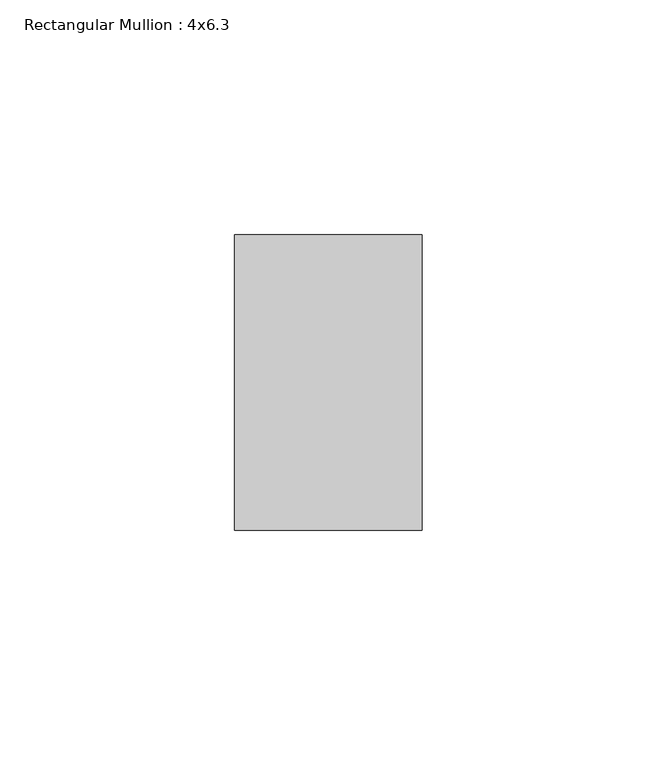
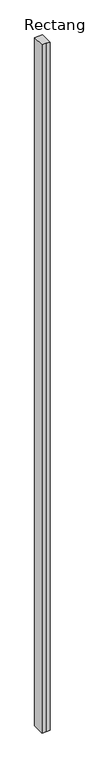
"""IFC4 building model written with IfcOpenShell, lengths in millimetres: member geometry, Rectangular Mullion : 4x6.3."""

from ifc_helpers import new_model, si_unit, frame, origin, place, context, project, spatial, polyline, outline, extrude, source, transform, mapped, element, save


def rectangular_mullion_4x6_3_01dcd266(model_context):
    return source(origin(), model_context, "Body", "SweptSolid", [
        extrude(outline(polyline([(-20.0, 20.0), (-20.0, 83.0), (20.0, 83.0), (20.0, 20.0), (0.0, 20.0), (-20.0, 20.0)])), frame((0.0, 0.0, -3626.5016127), z_axis=(0.0, 0.0, 1.0), x_axis=(1.0, 0.0, 0.0)), (0.0, 0.0, 1.0), 3626.5016127),
    ])


if __name__ == "__main__":
    model = new_model("IFC4")
    model_context = context("Model", 3, world=origin())
    ifc_project = project(units=[si_unit("LENGTHUNIT", "METRE", prefix="MILLI")], contexts=[model_context])
    site = spatial("IfcSite", under=ifc_project)
    building = spatial("IfcBuilding", under=site)
    placement = place(None, origin())
    rectangular_mullion_4x6_3_shape = rectangular_mullion_4x6_3_01dcd266(model_context)
    element("IfcMember", 1, ObjectType="Rectangular Mullion : 4x6.3", at=placement, inside=building, context=model_context, shape_type="MappedRepresentation", body=[
        mapped(rectangular_mullion_4x6_3_shape, transform((0.0, 0.0, 0.0), x_axis=(1.0, 0.0, 0.0), y_axis=(0.0, 1.0, 0.0), z_axis=(0.0, 0.0, 1.0))),
    ])
    save(model, "model.ifc")
